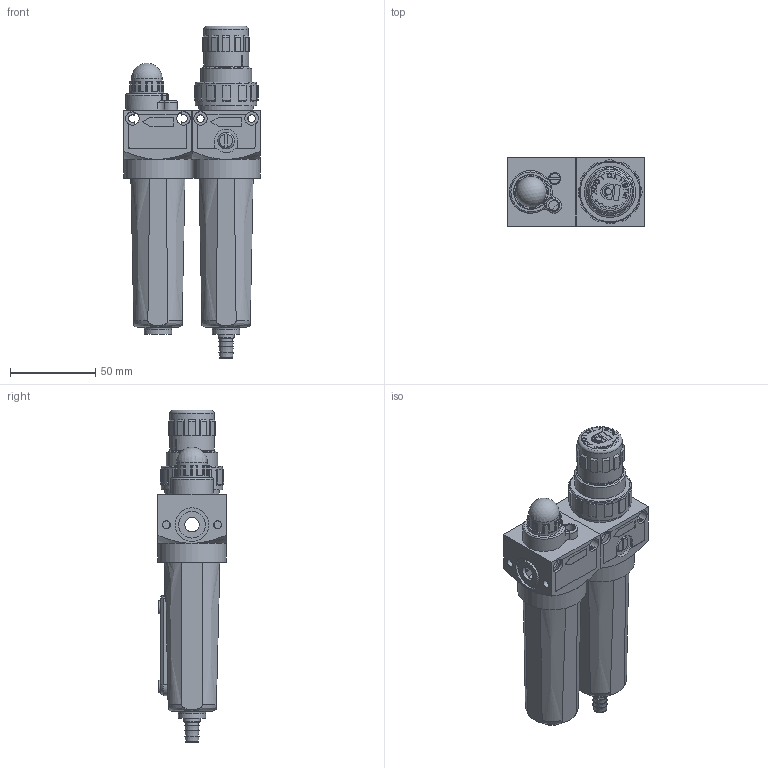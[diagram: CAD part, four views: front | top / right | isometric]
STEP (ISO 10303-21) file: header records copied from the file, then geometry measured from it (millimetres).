
FILE_DESCRIPTION((''),'2;1');
FILE_NAME('\\PC050\Users\MLazzarato\Desktop\NUOVO LISTINO\Materiale Aircom\STEP\615\615_1.stp','2016-12-01T09:29:39',('lucapalazzi'),(''),'Autodesk Inventor 2010','Autodesk Inventor 2010','');
FILE_SCHEMA(('AUTOMOTIVE_DESIGN { 1 0 10303 214 1 1 1 1 }'));
Length unit declared in the file: millimetre
Products named in the file (42): C10004; C08038; P20281; P50006; P40013; P21040; P52009; C43017; P43095; P28060; 0DF51206; P52022; P24049; P44023030304; P23027; P53003; P53003_1; C60002; P60001; P60002; C55003; P20310; P53004; C55003-ORing R6bis; P25037; C55003-0GAAA07020; P24050; P24050_1; P49006; P49007; P34102; C07002; P50006_1; P20065; P60006; P34033; P49004; P49005
Assembly tree (42 placements, depth 5):
  C10004
    C08038
      P20281
      P50006
      P40013
      P21040
      P52009
      C43017
        P43095
        P28060
        0DF51206
      P52022
      P24049
      P44023030304
      P23027
      P53003
      P53003_1
      C60002
        P60001
        P60002
      C55003
        P20310
        P53004
        C55003-ORing R6bis
        P25037
        C55003-0GAAA07020
        P24050
          P24050_1
      P49006
      P49007
      P34102
    C07002
      P50006_1
      P20065
      P60006
      P34033
      P53003  x2
      C60002
        P60001
        P60002
      P49004
      P49005
Bounding box: 80 x 40 x 194.8 mm (x, y, z)
Volume: 86299.1 mm3; surface area: 96831.3 mm2
Topology: 24 solids, 24 shells, 1186 faces, 3128 edges, 2029 vertices
Faces by surface type: plane 594, cylinder 242, bspline 227, cone 68, torus 38, sphere 17
Full cylindrical faces by diameter (mm): 0.6 x1, 1.5 x9, 3 x1, 3.6 x1, 4.5 x4, 5 x8, 5.1 x1, 5.979 x2, 6 x1, 7 x1, 7.5 x6, 8 x4, 8.566 x1, 9.5 x1, 9.728 x1, 13 x2, 14.608 x1, 15.7 x2, 16 x2, 18 x3, 19.8 x2, 20 x1, 20.5 x1, 26 x1, 26.2 x1, 26.4 x1, 27.104 x1, 29.649 x2, 30 x1, 31.5 x1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
Entity records: 39616 total; most frequent: CARTESIAN_POINT 11247, ORIENTED_EDGE 5716, DIRECTION 5375, EDGE_CURVE 2858, VERTEX_POINT 1931, AXIS2_PLACEMENT_3D 1900, VECTOR 1575, LINE 1575
